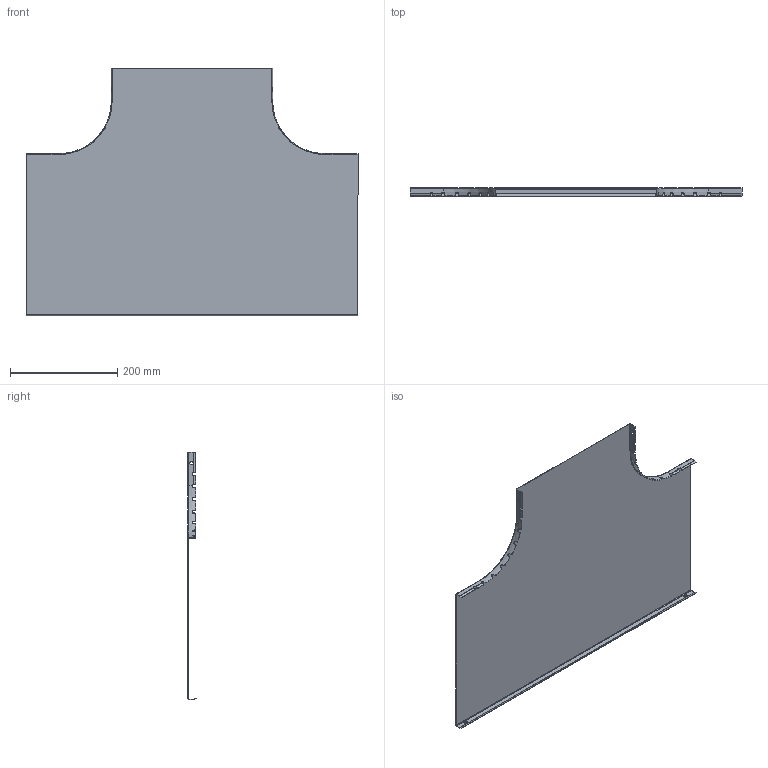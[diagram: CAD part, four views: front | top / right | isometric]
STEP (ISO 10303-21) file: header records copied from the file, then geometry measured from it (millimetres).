
FILE_DESCRIPTION (( 'STEP AP203' ), '1' );
FILE_NAME ('ERE_TAPA TE 300.step', '2023-07-28T14:51:49', ( '' ), ( '' ), 'SwSTEP 2.0', 'SolidWorks 2022', '' );
FILE_SCHEMA (( 'CONFIG_CONTROL_DESIGN' ));
Length unit declared in the file: millimetre
Products named in the file (1): ERE_TAPA TE 300
Bounding box: 620 x 14.96 x 461.5 mm (x, y, z)
Volume: 178368.3 mm3; surface area: 511325.9 mm2
Topology: 1 solids, 1 shells, 318 faces, 828 edges, 504 vertices
Faces by surface type: plane 154, bspline 88, cylinder 72, torus 4
Entity records: 17949 total; most frequent: CARTESIAN_POINT 10921, ORIENTED_EDGE 1656, DIRECTION 1135, EDGE_CURVE 828, VERTEX_POINT 504, AXIS2_PLACEMENT_3D 411, B_SPLINE_CURVE_WITH_KNOTS 335, FACE_OUTER_BOUND 318
